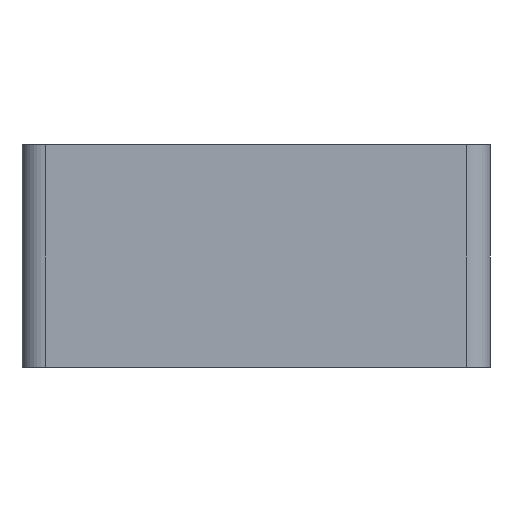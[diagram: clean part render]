
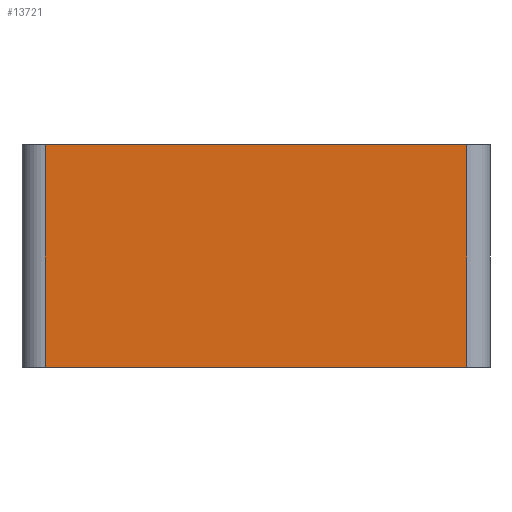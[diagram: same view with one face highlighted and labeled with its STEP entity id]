
A CAD part, front view. The second image highlights one B-rep face of the part: STEP entity #13721.
In plain terms, the highlighted planar face has unit normal (0, -1, 0).
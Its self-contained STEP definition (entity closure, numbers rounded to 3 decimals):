
#207 = ORIENTED_EDGE ( 'NONE', *, *, #17656, .F. ) ;
#2393 = VERTEX_POINT ( 'NONE', #15963 ) ;
#2465 = LINE ( 'NONE', #9161, #7761 ) ;
#3186 = DIRECTION ( 'NONE',  ( 0., -1., 0. ) ) ;
#3671 = DIRECTION ( 'NONE',  ( -1., 0., 0. ) ) ;
#4350 = CARTESIAN_POINT ( 'NONE',  ( -136., -240., 38.4 ) ) ;
#5540 = EDGE_CURVE ( 'NONE', #6720, #2393, #10039, .T. ) ;
#6062 = VECTOR ( 'NONE', #10067, 1000. ) ;
#6313 = DIRECTION ( 'NONE',  ( 0., 0., -1. ) ) ;
#6720 = VERTEX_POINT ( 'NONE', #11017 ) ;
#7108 = EDGE_CURVE ( 'NONE', #6720, #20580, #2465, .T. ) ;
#7567 = ORIENTED_EDGE ( 'NONE', *, *, #9246, .F. ) ;
#7761 = VECTOR ( 'NONE', #15736, 1000. ) ;
#7825 = CARTESIAN_POINT ( 'NONE',  ( -60., -240., 43.3 ) ) ;
#9161 = CARTESIAN_POINT ( 'NONE',  ( -64., -240., 43.3 ) ) ;
#9246 = EDGE_CURVE ( 'NONE', #2393, #9886, #13743, .T. ) ;
#9531 = DIRECTION ( 'NONE',  ( 1., 0., 0. ) ) ;
#9886 = VERTEX_POINT ( 'NONE', #12969 ) ;
#10039 = LINE ( 'NONE', #10575, #14120 ) ;
#10067 = DIRECTION ( 'NONE',  ( 0., 0., 1. ) ) ;
#10309 = CARTESIAN_POINT ( 'NONE',  ( -64., -240., 38.4 ) ) ;
#10575 = CARTESIAN_POINT ( 'NONE',  ( -64., -240., 0.3 ) ) ;
#11017 = CARTESIAN_POINT ( 'NONE',  ( -64., -240., 0.3 ) ) ;
#11178 = FACE_OUTER_BOUND ( 'NONE', #21102, .T. ) ;
#12461 = AXIS2_PLACEMENT_3D ( 'NONE', #7825, #3186, #6313 ) ;
#12969 = CARTESIAN_POINT ( 'NONE',  ( -136., -240., 38.4 ) ) ;
#13328 = ORIENTED_EDGE ( 'NONE', *, *, #7108, .T. ) ;
#13721 = ADVANCED_FACE ( 'NONE', ( #11178 ), #16448, .T. ) ;
#13743 = LINE ( 'NONE', #19895, #6062 ) ;
#14120 = VECTOR ( 'NONE', #3671, 1000. ) ;
#14180 = ORIENTED_EDGE ( 'NONE', *, *, #5540, .F. ) ;
#14644 = VECTOR ( 'NONE', #9531, 1000. ) ;
#15736 = DIRECTION ( 'NONE',  ( 0., 0., 1. ) ) ;
#15963 = CARTESIAN_POINT ( 'NONE',  ( -136., -240., 0.3 ) ) ;
#16448 = PLANE ( 'NONE',  #12461 ) ;
#17656 = EDGE_CURVE ( 'NONE', #9886, #20580, #19573, .T. ) ;
#19573 = LINE ( 'NONE', #4350, #14644 ) ;
#19895 = CARTESIAN_POINT ( 'NONE',  ( -136., -240., 43.3 ) ) ;
#20580 = VERTEX_POINT ( 'NONE', #10309 ) ;
#21102 = EDGE_LOOP ( 'NONE', ( #13328, #207, #7567, #14180 ) ) ;
